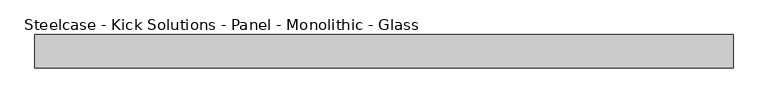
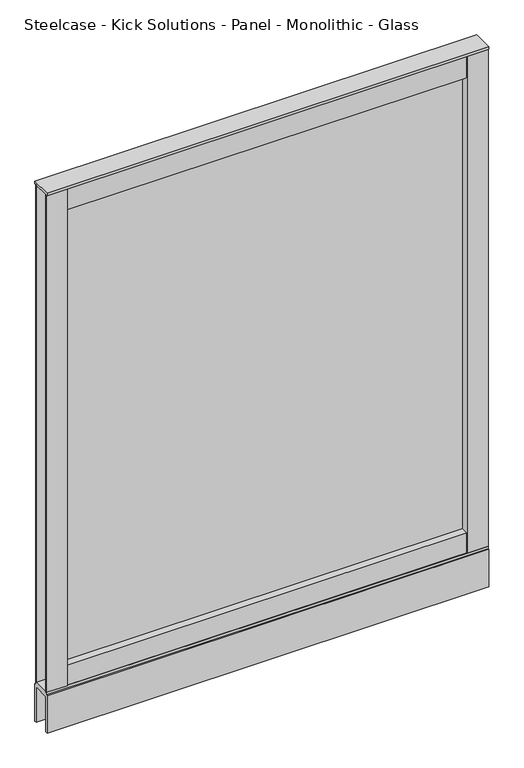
"""IFC4 building model written with IfcOpenShell, lengths in millimetres: furniture geometry, Steelcase - Kick Solutions - Panel - Monolithic - Glass : 54H x 42W."""

import ifcopenshell
import ifcopenshell.guid

model = None  # the IFC model being written
_history = None  # IfcOwnerHistory: only IFC2X3 demands one
_inside = {}  # id of a spatial element -> (the spatial element, [elements in it])
_under = {}  # id of a project, library or spatial element -> (it, [spatial elements below it])
_declared = {}  # id of a project -> (the project, [libraries it declares])
_typed = {}  # id of a type object -> (the type object, [elements of that type])
_made_of = {}  # id of a material, layer set ... -> (it, [elements and type objects made of it])


def new_model(schema):
    """Start an empty IFC model of exactly this schema.

    Asked for "IFC4X3", IfcOpenShell would pick the latest addendum, in which some entities
    have other attributes; the version numbers below select the first issue.
    IFC2X3 requires an IfcOwnerHistory on every rooted entity: one is made here for all.
    """
    global model, _history
    if schema == "IFC4X3":
        model = ifcopenshell.file(schema_version=(4, 3, 0, 0))
    else:
        model = ifcopenshell.file(schema=schema)
    _inside.clear()
    _under.clear()
    _declared.clear()
    _typed.clear()
    _made_of.clear()
    _history = None
    if model.schema == "IFC2X3":
        org = make("IfcOrganization", Name="unknown")
        user = make(
            "IfcPersonAndOrganization",
            ThePerson=make("IfcPerson", FamilyName="unknown"),
            TheOrganization=org,
        )
        app = make(
            "IfcApplication",
            ApplicationDeveloper=org,
            Version="unknown",
            ApplicationFullName="unknown",
            ApplicationIdentifier="unknown",
        )
        _history = make(
            "IfcOwnerHistory",
            OwningUser=user,
            OwningApplication=app,
            ChangeAction="ADDED",
            CreationDate=0,
        )
    return model


def make(cls, **values):
    """One entity of the class cls with the attributes given. An attribute that is None is left unset."""
    return model.create_entity(
        cls, **{name: value for name, value in values.items() if value is not None}
    )


def rooted(cls, **values):
    """An entity with a GlobalId (a new one), such as an element, a storey or a relation."""
    return make(cls, GlobalId=ifcopenshell.guid.new(), OwnerHistory=_history, **values)


def si_unit(unit_type, name, prefix=None):
    """IfcSIUnit, for example si_unit("LENGTHUNIT", "METRE", prefix="MILLI")."""
    return make("IfcSIUnit", UnitType=unit_type, Prefix=prefix, Name=name)


def assignment(units):
    """IfcUnitAssignment: the units of a project."""
    return None if units is None else make("IfcUnitAssignment", Units=units)


def point(xyz):
    """IfcCartesianPoint."""
    return None if xyz is None else make("IfcCartesianPoint", Coordinates=xyz)


def direction(xyz):
    """IfcDirection."""
    return None if xyz is None else make("IfcDirection", DirectionRatios=xyz)


def frame(location, z_axis=None, x_axis=None):
    """IfcAxis2Placement3D, a coordinate frame: its origin and axes. An axis left out is left unset."""
    return make(
        "IfcAxis2Placement3D",
        Location=point(location),
        Axis=direction(z_axis),
        RefDirection=direction(x_axis),
    )


def origin():
    """The frame at (0, 0, 0) with its axes left unset."""
    return frame((0.0, 0.0, 0.0))


def place(relative_to, where):
    """IfcLocalPlacement: puts the frame where relative to a parent placement (None: the world)."""
    return make(
        "IfcLocalPlacement", PlacementRelTo=relative_to, RelativePlacement=where
    )


def context(
    kind, dimensions, precision=None, world=None, true_north=None, identifier=None
):
    """IfcGeometricRepresentationContext, for example the 3D "Model" context."""
    return make(
        "IfcGeometricRepresentationContext",
        ContextIdentifier=identifier,
        ContextType=kind,
        CoordinateSpaceDimension=dimensions,
        Precision=precision,
        WorldCoordinateSystem=world,
        TrueNorth=true_north,
    )


def project(units=None, contexts=None):
    """IfcProject with its units and contexts."""
    return rooted(
        "IfcProject",
        Name="project",
        RepresentationContexts=contexts,
        UnitsInContext=assignment(units),
    )


def spatial(cls, under=None, at=None, **own):
    """A site, building, storey or space (cls), placed at a placement, below another one or the project."""
    s = rooted(cls, ObjectPlacement=at, **own)
    if under is not None:
        _under.setdefault(under.id(), (under, []))[1].append(s)
    return s


def polyline(points):
    """IfcPolyline through the points."""
    return make("IfcPolyline", Points=[point(p) for p in points])


def outline(outer, holes=None, kind="AREA"):
    """IfcArbitraryClosedProfileDef: a profile drawn as a closed curve; with holes, ...WithVoids."""
    if holes is None:
        return make("IfcArbitraryClosedProfileDef", ProfileType=kind, OuterCurve=outer)
    return make(
        "IfcArbitraryProfileDefWithVoids",
        ProfileType=kind,
        OuterCurve=outer,
        InnerCurves=holes,
    )


def extrude(swept, where, along, depth):
    """IfcExtrudedAreaSolid: the profile swept, set in the frame where, extruded along a direction by depth."""
    return make(
        "IfcExtrudedAreaSolid",
        SweptArea=swept,
        Position=where,
        ExtrudedDirection=direction(along),
        Depth=depth,
    )


def shape(context_of_items, identifier, shape_type, items):
    """IfcShapeRepresentation: the items that make up one representation, for example the "Body"."""
    return make(
        "IfcShapeRepresentation",
        ContextOfItems=context_of_items,
        RepresentationIdentifier=identifier,
        RepresentationType=shape_type,
        Items=items,
    )


def source(mapping_origin, context_of_items, identifier, shape_type, items):
    """IfcRepresentationMap: a shape defined once, which mapped items show again and again."""
    return make(
        "IfcRepresentationMap",
        MappingOrigin=mapping_origin,
        MappedRepresentation=shape(context_of_items, identifier, shape_type, items),
    )


def transform(
    local_origin,
    x_axis=None,
    y_axis=None,
    z_axis=None,
    scale=None,
    scale2=None,
    scale3=None,
    uniform=True,
):
    """IfcCartesianTransformationOperator3D, or its non-uniform kind. x_axis, y_axis, z_axis: its Axis1, 2, 3."""
    if uniform:
        return make(
            "IfcCartesianTransformationOperator3D",
            Axis1=direction(x_axis),
            Axis2=direction(y_axis),
            LocalOrigin=point(local_origin),
            Scale=scale,
            Axis3=direction(z_axis),
        )
    return make(
        "IfcCartesianTransformationOperator3DnonUniform",
        Axis1=direction(x_axis),
        Axis2=direction(y_axis),
        LocalOrigin=point(local_origin),
        Scale=scale,
        Axis3=direction(z_axis),
        Scale2=scale2,
        Scale3=scale3,
    )


def mapped(mapping_source, mapping_target):
    """IfcMappedItem: shows the shape of a source again, moved by a transform."""
    return make(
        "IfcMappedItem", MappingSource=mapping_source, MappingTarget=mapping_target
    )


def made_of(thing, what):
    """Note that an element or type object is made of a material, layer set ...; save() writes the relation."""
    if what is not None:
        _made_of.setdefault(what.id(), (what, []))[1].append(thing)
    return thing


def element(
    cls,
    number,
    at=None,
    inside=None,
    cuts=None,
    type_object=None,
    material=None,
    context=None,
    identifier="Body",
    shape_type=None,
    held_by="IfcProductDefinitionShape",
    body=None,
    shapes=None,
    **own,
):
    """One element of the class cls, such as IfcWall. Its Tag is "e" and its number.

    at: its placement. inside: the storey or other place that contains it. cuts: it is an
    opening in that element (IfcRelVoidsElement). A single representation is given by context,
    identifier, shape_type and body (its items); several are given by shapes. held_by: the class
    of the entity that holds the representations. save() writes the other relations.
    """
    e = rooted(cls, Tag="e%d" % number, ObjectPlacement=at, **own)
    if body is not None:
        shapes = [shape(context, identifier, shape_type, body)]
    if shapes is not None:
        e.Representation = make(held_by, Representations=shapes)
    if inside is not None:
        _inside.setdefault(inside.id(), (inside, []))[1].append(e)
    if cuts is not None:
        rooted(
            "IfcRelVoidsElement", RelatingBuildingElement=cuts, RelatedOpeningElement=e
        )
    if type_object is not None:
        _typed.setdefault(type_object.id(), (type_object, []))[1].append(e)
    return made_of(e, material)


def aggregate(whole, parts):
    """IfcRelAggregates: a whole, such as a stair, and the parts it consists of."""
    return rooted("IfcRelAggregates", RelatingObject=whole, RelatedObjects=parts)


def save(model, path):
    """Write the relations noted so far, then the file.

    IfcRelAggregates (storeys below a building ...), IfcRelContainedInSpatialStructure (elements
    in a storey), IfcRelDefinesByType, IfcRelAssociatesMaterial and IfcRelDeclares: one each for
    every whole, place, type object, material and project.
    """
    for whole, parts in _under.values():
        aggregate(whole, parts)
    for where, things in _inside.values():
        rooted(
            "IfcRelContainedInSpatialStructure",
            RelatedElements=things,
            RelatingStructure=where,
        )
    for kind, things in _typed.values():
        rooted("IfcRelDefinesByType", RelatedObjects=things, RelatingType=kind)
    for what, things in _made_of.values():
        rooted("IfcRelAssociatesMaterial", RelatedObjects=things, RelatingMaterial=what)
    for by, libraries in _declared.values():
        rooted("IfcRelDeclares", RelatingContext=by, RelatedDefinitions=libraries)
    model.write(path)


def steelcase_kick_solutions_panel_monolithic_glass_163bfda3(model_context):
    return source(origin(), model_context, "Body", "SweptSolid", [
        extrude(outline(polyline([(1016.0006661, -5.08), (1016.0006661, -45.7200015), (50.8006646, -45.7200015), (50.8006646, -5.08), (1016.0006661, -5.08)])), frame((0.0, 0.0, 101.7169049), z_axis=(0.0, 0.0, 1.0), x_axis=(1.0, 0.0, 0.0)), (0.0, 0.0, 1.0), 50.6830951),
        extrude(outline(polyline([(1016.0006661, -5.08), (1016.0006661, -45.7200015), (50.8006646, -45.7200015), (50.8006646, -5.08), (1016.0006661, -5.08)])), frame((0.0, 0.0, 1314.45), z_axis=(0.0, 0.0, 1.0), x_axis=(1.0, 0.0, 0.0)), (0.0, 0.0, 1.0), 57.15),
        extrude(outline(polyline([(50.8006646, -3.1743148), (50.8006646, -47.6243142), (0.0, -47.6243142), (0.0, -45.7200015), (47.7526646, -45.7200015), (47.7526646, -5.08), (0.0, -5.08), (0.0, -3.1743148), (50.8006646, -3.1743148)])), frame((0.0, 0.0, 101.7169049), z_axis=(0.0, 0.0, 1.0), x_axis=(1.0, 0.0, 0.0)), (0.0, 0.0, 1.0), 1269.8830951),
        extrude(outline(polyline([(1016.0006661, -3.1743148), (1066.8, -3.1743148), (1066.8, -5.08), (1019.0486661, -5.08), (1019.0486661, -45.7200015), (1066.8, -45.7200015), (1066.8, -47.6243142), (1016.0006661, -47.6243142), (1016.0006661, -3.1743148)])), frame((0.0, 0.0, 101.7169049), z_axis=(0.0, 0.0, 1.0), x_axis=(1.0, 0.0, 0.0)), (0.0, 0.0, 1.0), 1269.8830951),
        extrude(outline(polyline([(1016.0006661, -28.422537), (50.8006646, -28.422537), (50.8006646, -25.4), (1016.0006661, -25.4), (1016.0006661, -28.422537)])), frame((0.0, 0.0, 152.4), z_axis=(0.0, 0.0, 1.0), x_axis=(1.0, 0.0, 0.0)), (0.0, 0.0, 1.0), 1162.05),
        extrude(outline(polyline([(1066.8, 0.0), (1066.8, -50.8000015), (0.0, -50.8000015), (0.0, 0.0), (1066.8, 0.0)])), frame((0.0, 0.0, 1371.6), z_axis=(0.0, 0.0, 1.0), x_axis=(1.0, 0.0, 0.0)), (0.0, 0.0, 1.0), 6.35),
        extrude(outline(polyline([(0.0, 0.0), (-5.08, 0.0), (-5.08, 90.2869018), (-45.7200015, 90.2869018), (-45.7200015, 0.0), (-50.8000015, 0.0), (-50.8000015, 95.3669018), (-47.6243142, 95.3669018), (-47.6243142, 101.7169049), (-3.1743148, 101.7169049), (-3.1743148, 95.3669018), (0.0, 95.3669018), (0.0, 0.0)])), frame((0.0, 0.0, 0.0), z_axis=(1.0, 0.0, 0.0), x_axis=(0.0, 1.0, 0.0)), (0.0, 0.0, 1.0), 1066.8),
    ])


if __name__ == "__main__":
    model = new_model("IFC4")
    model_context = context("Model", 3, world=origin())
    ifc_project = project(units=[si_unit("LENGTHUNIT", "METRE", prefix="MILLI")], contexts=[model_context])
    site = spatial("IfcSite", under=ifc_project)
    building = spatial("IfcBuilding", under=site)
    placement = place(None, origin())
    steelcase_kick_solutions_panel_monolithic_glass_shape = steelcase_kick_solutions_panel_monolithic_glass_163bfda3(model_context)
    element("IfcFurniture", 1, ObjectType="Steelcase - Kick Solutions - Panel - Monolithic - Glass : 54H x 42W", at=placement, inside=building, context=model_context, shape_type="MappedRepresentation", body=[
        mapped(steelcase_kick_solutions_panel_monolithic_glass_shape, transform((0.0, 0.0, 0.0), x_axis=(1.0, 0.0, 0.0), y_axis=(0.0, 1.0, 0.0), z_axis=(0.0, 0.0, 1.0))),
    ])
    save(model, "model.ifc")
